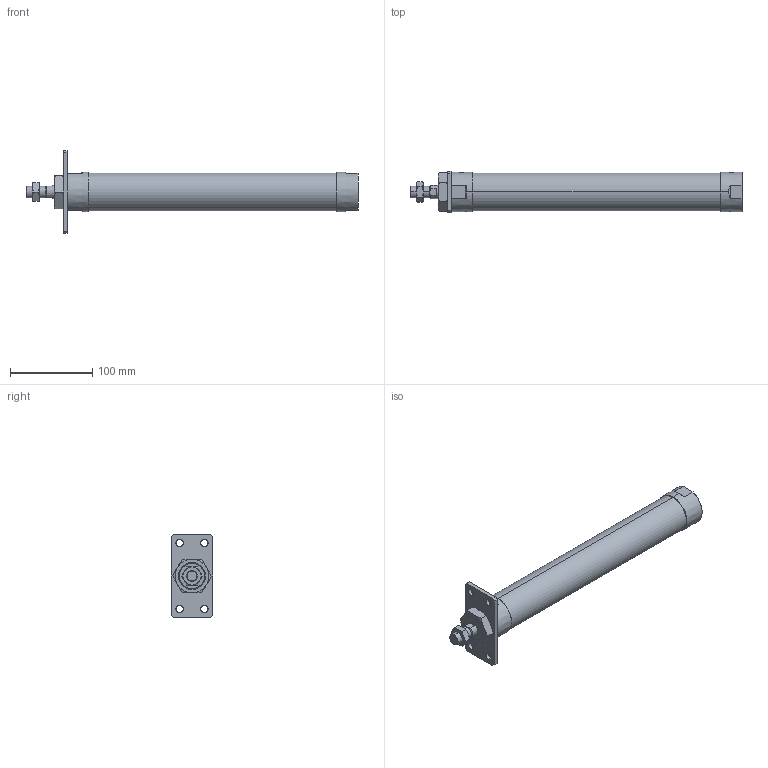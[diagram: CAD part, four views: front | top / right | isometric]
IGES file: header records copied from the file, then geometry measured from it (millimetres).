
Start section: SolidWorks IGES file using analytic representation for surfaces
Global section: file name: C:\Users\Toshiba\Desktop\JGND2-40-250-A.IGS; native system: SolidWorks 2014; preprocessor: SolidWorks 2014; author: Toshiba; date: 160804.111454; units: millimetre
Bounding box: 403 x 50 x 100 mm (x, y, z)
Surface area: 75022.3 mm2 (no closed solid volume)
Topology: 0 solids, 0 shells, 109 faces, 2174 edges, 2170 vertices
Faces by surface type: bspline 66, revolution 43
